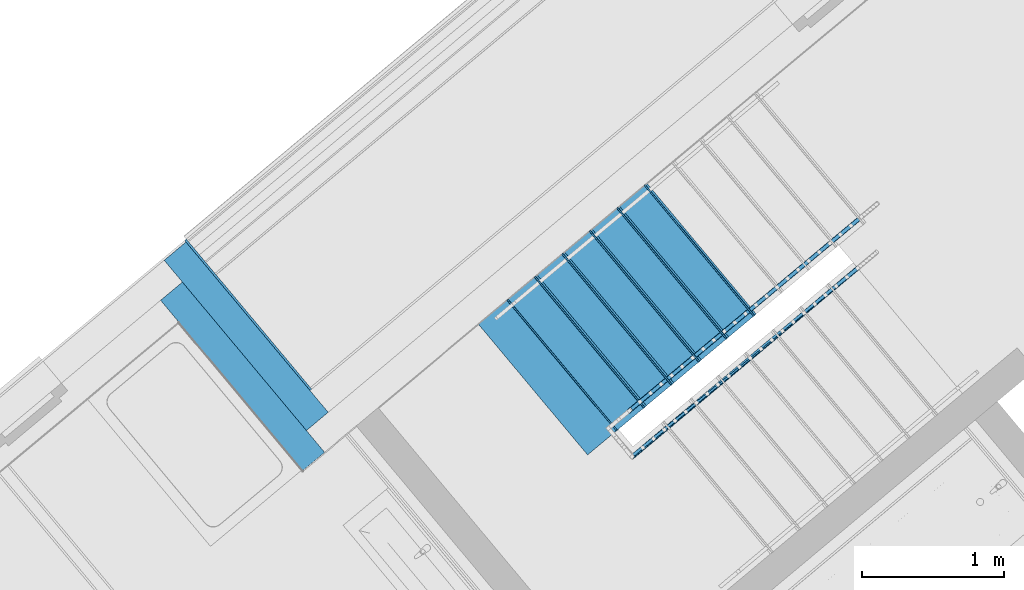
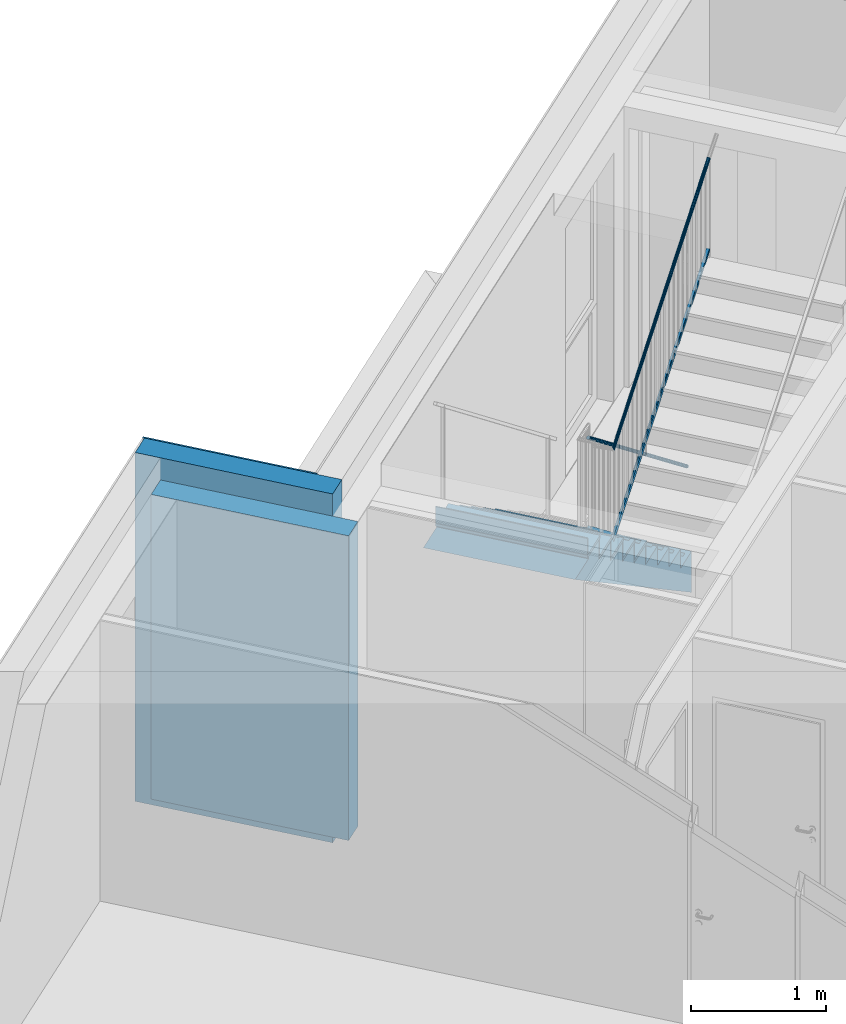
# One storey, part 32 of 53: 19 building element parts, 3 elements without a shape of their own.
"""IFC4 building model written with IfcOpenShell, lengths in metres."""

import ifcopenshell
import ifcopenshell.guid

model = None  # the IFC model being written
_history = None  # IfcOwnerHistory: only IFC2X3 demands one
_inside = {}  # id of a spatial element -> (the spatial element, [elements in it])
_under = {}  # id of a project, library or spatial element -> (it, [spatial elements below it])
_declared = {}  # id of a project -> (the project, [libraries it declares])
_typed = {}  # id of a type object -> (the type object, [elements of that type])
_made_of = {}  # id of a material, layer set ... -> (it, [elements and type objects made of it])


def new_model(schema):
    """Start an empty IFC model of exactly this schema.

    Asked for "IFC4X3", IfcOpenShell would pick the latest addendum, in which some entities
    have other attributes; the version numbers below select the first issue.
    IFC2X3 requires an IfcOwnerHistory on every rooted entity: one is made here for all.
    """
    global model, _history
    if schema == "IFC4X3":
        model = ifcopenshell.file(schema_version=(4, 3, 0, 0))
    else:
        model = ifcopenshell.file(schema=schema)
    _inside.clear()
    _under.clear()
    _declared.clear()
    _typed.clear()
    _made_of.clear()
    _history = None
    if model.schema == "IFC2X3":
        org = make("IfcOrganization", Name="unknown")
        user = make(
            "IfcPersonAndOrganization",
            ThePerson=make("IfcPerson", FamilyName="unknown"),
            TheOrganization=org,
        )
        app = make(
            "IfcApplication",
            ApplicationDeveloper=org,
            Version="unknown",
            ApplicationFullName="unknown",
            ApplicationIdentifier="unknown",
        )
        _history = make(
            "IfcOwnerHistory",
            OwningUser=user,
            OwningApplication=app,
            ChangeAction="ADDED",
            CreationDate=0,
        )
    return model


def make(cls, **values):
    """One entity of the class cls with the attributes given. An attribute that is None is left unset."""
    return model.create_entity(
        cls, **{name: value for name, value in values.items() if value is not None}
    )


def entity(cls, *values):
    """Any entity or typed value of the class cls, its attributes in the order of the schema. None: left unset."""
    e = model.create_entity(cls)
    for i, value in enumerate(values):
        if value is not None:
            e[i] = value
    return e


def rooted(cls, **values):
    """An entity with a GlobalId (a new one), such as an element, a storey or a relation."""
    return make(cls, GlobalId=ifcopenshell.guid.new(), OwnerHistory=_history, **values)


def si_unit(unit_type, name, prefix=None):
    """IfcSIUnit, for example si_unit("LENGTHUNIT", "METRE", prefix="MILLI")."""
    return make("IfcSIUnit", UnitType=unit_type, Prefix=prefix, Name=name)


def converted_unit(unit_type, name, factor, base, dimensions=None, offset=None):
    """IfcConversionBasedUnit, such as the inch: factor (a typed value) times the base unit."""
    return make(
        "IfcConversionBasedUnit"
        if offset is None
        else "IfcConversionBasedUnitWithOffset",
        ConversionOffset=offset,
        Dimensions=None
        if dimensions is None
        else entity("IfcDimensionalExponents", *dimensions),
        UnitType=unit_type,
        Name=name,
        ConversionFactor=make(
            "IfcMeasureWithUnit", ValueComponent=factor, UnitComponent=base
        ),
    )


def derived_unit(unit_type, elements):
    """IfcDerivedUnit: a product of units, each with its exponent."""
    return make(
        "IfcDerivedUnit",
        Elements=[
            make("IfcDerivedUnitElement", Unit=unit, Exponent=power)
            for unit, power in elements
        ],
        UnitType=unit_type,
    )


def assignment(units):
    """IfcUnitAssignment: the units of a project."""
    return None if units is None else make("IfcUnitAssignment", Units=units)


def point(xyz):
    """IfcCartesianPoint."""
    return None if xyz is None else make("IfcCartesianPoint", Coordinates=xyz)


def direction(xyz):
    """IfcDirection."""
    return None if xyz is None else make("IfcDirection", DirectionRatios=xyz)


def frame(location, z_axis=None, x_axis=None):
    """IfcAxis2Placement3D, a coordinate frame: its origin and axes. An axis left out is left unset."""
    return make(
        "IfcAxis2Placement3D",
        Location=point(location),
        Axis=direction(z_axis),
        RefDirection=direction(x_axis),
    )


def origin_with_axes():
    """The frame at (0, 0, 0) with the z axis (0, 0, 1) and the x axis (1, 0, 0) written out."""
    return frame((0.0, 0.0, 0.0), z_axis=(0.0, 0.0, 1.0), x_axis=(1.0, 0.0, 0.0))


def place(relative_to, where):
    """IfcLocalPlacement: puts the frame where relative to a parent placement (None: the world)."""
    return make(
        "IfcLocalPlacement", PlacementRelTo=relative_to, RelativePlacement=where
    )


def context(
    kind, dimensions, precision=None, world=None, true_north=None, identifier=None
):
    """IfcGeometricRepresentationContext, for example the 3D "Model" context."""
    return make(
        "IfcGeometricRepresentationContext",
        ContextIdentifier=identifier,
        ContextType=kind,
        CoordinateSpaceDimension=dimensions,
        Precision=precision,
        WorldCoordinateSystem=world,
        TrueNorth=true_north,
    )


def subcontext(parent, identifier, kind, view, scale=None):
    """IfcGeometricRepresentationSubContext, for example "Body" below "Model"."""
    return make(
        "IfcGeometricRepresentationSubContext",
        ContextIdentifier=identifier,
        ContextType=kind,
        ParentContext=parent,
        TargetScale=scale,
        TargetView=view,
    )


def project(units=None, contexts=None):
    """IfcProject with its units and contexts."""
    return rooted(
        "IfcProject",
        Name="project",
        RepresentationContexts=contexts,
        UnitsInContext=assignment(units),
    )


def spatial(cls, under=None, at=None, **own):
    """A site, building, storey or space (cls), placed at a placement, below another one or the project."""
    s = rooted(cls, ObjectPlacement=at, **own)
    if under is not None:
        _under.setdefault(under.id(), (under, []))[1].append(s)
    return s


def point_list(points):
    """IfcCartesianPointList2D or 3D."""
    cls = (
        "IfcCartesianPointList2D" if len(points[0]) == 2 else "IfcCartesianPointList3D"
    )
    return make(cls, CoordList=points)


def polygons(points, faces, closed=None, point_numbers=None):
    """IfcPolygonalFaceSet: a face is its outer loop, then its inner loops; points numbered from 1."""
    made = []
    for loops in faces:
        if len(loops) == 1:
            made.append(make("IfcIndexedPolygonalFace", CoordIndex=loops[0]))
        else:
            made.append(
                make(
                    "IfcIndexedPolygonalFaceWithVoids",
                    CoordIndex=loops[0],
                    InnerCoordIndices=loops[1:],
                )
            )
    return make(
        "IfcPolygonalFaceSet",
        Coordinates=point_list(points),
        Closed=closed,
        Faces=made,
        PnIndex=point_numbers,
    )


def shape(context_of_items, identifier, shape_type, items):
    """IfcShapeRepresentation: the items that make up one representation, for example the "Body"."""
    return make(
        "IfcShapeRepresentation",
        ContextOfItems=context_of_items,
        RepresentationIdentifier=identifier,
        RepresentationType=shape_type,
        Items=items,
    )


def material(Name=None, Category=None):
    """IfcMaterial."""
    return make("IfcMaterial", Name=Name, Category=Category)


def made_of(thing, what):
    """Note that an element or type object is made of a material, layer set ...; save() writes the relation."""
    if what is not None:
        _made_of.setdefault(what.id(), (what, []))[1].append(thing)
    return thing


def type_object(cls, material=None, **own):
    """A type object (cls), such as IfcWallType, which elements share."""
    return made_of(rooted(cls, **own), material)


def element(
    cls,
    number,
    at=None,
    inside=None,
    cuts=None,
    type_object=None,
    material=None,
    context=None,
    identifier="Body",
    shape_type=None,
    held_by="IfcProductDefinitionShape",
    body=None,
    shapes=None,
    **own,
):
    """One element of the class cls, such as IfcWall. Its Tag is "e" and its number.

    at: its placement. inside: the storey or other place that contains it. cuts: it is an
    opening in that element (IfcRelVoidsElement). A single representation is given by context,
    identifier, shape_type and body (its items); several are given by shapes. held_by: the class
    of the entity that holds the representations. save() writes the other relations.
    """
    e = rooted(cls, Tag="e%d" % number, ObjectPlacement=at, **own)
    if body is not None:
        shapes = [shape(context, identifier, shape_type, body)]
    if shapes is not None:
        e.Representation = make(held_by, Representations=shapes)
    if inside is not None:
        _inside.setdefault(inside.id(), (inside, []))[1].append(e)
    if cuts is not None:
        rooted(
            "IfcRelVoidsElement", RelatingBuildingElement=cuts, RelatedOpeningElement=e
        )
    if type_object is not None:
        _typed.setdefault(type_object.id(), (type_object, []))[1].append(e)
    return made_of(e, material)


def aggregate(whole, parts):
    """IfcRelAggregates: a whole, such as a stair, and the parts it consists of."""
    return rooted("IfcRelAggregates", RelatingObject=whole, RelatedObjects=parts)


def save(model, path):
    """Write the relations noted so far, then the file.

    IfcRelAggregates (storeys below a building ...), IfcRelContainedInSpatialStructure (elements
    in a storey), IfcRelDefinesByType, IfcRelAssociatesMaterial and IfcRelDeclares: one each for
    every whole, place, type object, material and project.
    """
    for whole, parts in _under.values():
        aggregate(whole, parts)
    for where, things in _inside.values():
        rooted(
            "IfcRelContainedInSpatialStructure",
            RelatedElements=things,
            RelatingStructure=where,
        )
    for kind, things in _typed.values():
        rooted("IfcRelDefinesByType", RelatedObjects=things, RelatingType=kind)
    for what, things in _made_of.values():
        rooted("IfcRelAssociatesMaterial", RelatedObjects=things, RelatingMaterial=what)
    for by, libraries in _declared.values():
        rooted("IfcRelDeclares", RelatingContext=by, RelatedDefinitions=libraries)
    model.write(path)


model = new_model("IFC4")

# Units and contexts
model_context = context("Model", 3, precision=1e-05, world=origin_with_axes(), true_north=direction((0.0, 1.0)))
body_context = subcontext(model_context, "Body", "Model", "MODEL_VIEW")
ifc_project = project(units=[si_unit("LENGTHUNIT", "METRE"), si_unit("AREAUNIT", "SQUARE_METRE"), si_unit("VOLUMEUNIT", "CUBIC_METRE"), converted_unit("PLANEANGLEUNIT", "DEGREE", entity("IfcPlaneAngleMeasure", 0.0174532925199), si_unit("PLANEANGLEUNIT", "RADIAN"), dimensions=[0, 0, 0, 0, 0, 0, 0]), converted_unit("TIMEUNIT", "Year", entity("IfcTimeMeasure", 31556926.0), si_unit("TIMEUNIT", "SECOND"), dimensions=[0, 0, 1, 0, 0, 0, 0]), si_unit("MASSUNIT", "GRAM", prefix="KILO"), si_unit("THERMODYNAMICTEMPERATUREUNIT", "DEGREE_CELSIUS"), si_unit("LUMINOUSINTENSITYUNIT", "LUMEN"), si_unit("ENERGYUNIT", "JOULE", prefix="MEGA"), derived_unit("THERMALCONDUCTANCEUNIT", [(si_unit("POWERUNIT", "WATT"), 1), (si_unit("LENGTHUNIT", "METRE"), -1), (si_unit("THERMODYNAMICTEMPERATUREUNIT", "KELVIN"), -1)]), derived_unit("SPECIFICHEATCAPACITYUNIT", [(si_unit("ENERGYUNIT", "JOULE"), 1), (si_unit("MASSUNIT", "GRAM", prefix="KILO"), -1), (si_unit("THERMODYNAMICTEMPERATUREUNIT", "KELVIN"), -1)]), derived_unit("MASSDENSITYUNIT", [(si_unit("MASSUNIT", "GRAM", prefix="KILO"), 1), (si_unit("VOLUMEUNIT", "CUBIC_METRE"), -1)])], contexts=[model_context])

# Site, building, storey
site_placement = place(None, frame((-0.00153261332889, -0.00661245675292, 0.0), z_axis=(0.0, 0.0, 1.0), x_axis=(1.0, 0.0, 0.0)))
site = spatial("IfcSite", under=ifc_project, at=site_placement, Name="Gelände", CompositionType="ELEMENT")
building_placement = place(site_placement, origin_with_axes())
building = spatial("IfcBuilding", under=site, at=building_placement, Name="Gebäude", CompositionType="ELEMENT")
storey_placement = place(building_placement, frame((0.0, 0.0, 2.74), z_axis=(0.0, 0.0, 1.0), x_axis=(1.0, 0.0, 0.0)))
storey = spatial("IfcBuildingStorey", under=building, at=storey_placement, Name="OG1", CompositionType="ELEMENT", Elevation=2.74)

# Wall, building element parts
wall_type = type_object("IfcWallType", Name="AW EG 420", PredefinedType="NOTDEFINED")
wall_placement = place(storey_placement, frame((-4.30928730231, 22.6730576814, -0.2), z_axis=(0.0, 0.0, 1.0), x_axis=(-0.641206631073, 0.767368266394, 0.0)))
wall = element("IfcWall", 1, at=wall_placement, inside=storey, type_object=wall_type, Name="Wand-002", PredefinedType="NOTDEFINED")
ifc_material_1 = material(Name="Stahlbeton Wand")
building_element_part_1_placement = place(wall_placement, origin_with_axes())
building_element_part_1 = element("IfcBuildingElementPart", 2, at=building_element_part_1_placement, material=ifc_material_1, Name="Stahlbeton Wand", PredefinedType="NOTDEFINED", context=body_context, shape_type="Tessellation", body=[
    polygons([(1.14643888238, 0.215, 2.96), (-0.215000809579, 0.215, 2.96), (-0.41500080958, 0.215, 2.96), (-0.41500080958, 0.215, 0.2), (-0.215000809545, 0.214999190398, 0.2), (1.14643888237, 0.215004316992, 0.2), (-0.415001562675, 0.415, 2.96), (1.14643891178, 0.415, 2.96), (-0.415001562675, 0.415, 0.2), (1.14643888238, 0.415, 0.2)], [[[1, 2, 3, 4, 5, 6]], [[7, 3, 2, 1, 8]], [[3, 7, 9, 4]], [[5, 4, 9, 10, 6]], [[8, 1, 6, 10]], [[7, 8, 10, 9]]], closed=True),
])
ifc_material_2 = material(Name="EPS 1")
building_element_part_2_placement = place(wall_placement, origin_with_axes())
building_element_part_2 = element("IfcBuildingElementPart", 3, at=building_element_part_2_placement, material=ifc_material_2, Name="EPS 1", PredefinedType="NOTDEFINED", context=body_context, shape_type="Tessellation", body=[
    polygons([(1.34643888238, 0.215, 3.16), (1.34643888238, 0.215, 0.0), (-0.215000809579, 0.215, 0.0), (-0.215000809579, 0.215, 3.16), (1.34643888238, 0.135005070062, 0.0), (1.34643888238, 0.015, 3.16), (1.34643729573, 0.015, 0.2), (1.34643888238, 0.0234629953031, 0.2), (1.34643888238, 0.135005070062, 0.2), (-0.13500050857, 0.134999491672, 0.0), (-0.135000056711, 0.015, 0.0), (-0.215000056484, 0.015, 0.0), (-0.215000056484, 0.015, 3.16), (-0.135000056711, 0.015, 0.2), (-0.13500050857, 0.134999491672, 0.2)], [[[1, 2, 3, 4]], [[5, 2, 1, 6, 7, 8, 9]], [[2, 5, 10, 11, 12, 3]], [[4, 3, 12, 13]], [[6, 1, 4, 13]], [[11, 14, 7, 6, 13, 12]], [[9, 8, 7, 14, 15]], [[5, 9, 15, 10]], [[10, 15, 14, 11]]], closed=True),
])
ifc_material_3 = material(Name="Zementputz")
building_element_part_3_placement = place(wall_placement, origin_with_axes())
building_element_part_3 = element("IfcBuildingElementPart", 4, at=building_element_part_3_placement, material=ifc_material_3, Name="Zementputz", PredefinedType="NOTDEFINED", context=body_context, shape_type="Tessellation", body=[
    polygons([(-0.0150000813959, 0.0149999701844, 0.215), (-0.0150000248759, 0.0, 0.215), (-0.0150000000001, 0.0, 3.16), (-0.0150000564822, 0.015, 3.16), (1.14643605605, 0.0, 0.215), (1.14643887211, 0.0150000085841, 0.215), (1.14643605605, 0.0, 0.2), (1.34643448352, 0.0, 0.2), (1.34643448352, 0.0, 0.0), (1.36143888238, 0.0, 0.0), (1.36143888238, 0.0, 3.16), (1.36143888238, 0.015, 3.16), (1.36143888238, 0.015, 0.0), (1.34643729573, 0.015, 0.0), (1.34643729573, 0.015, 0.2), (1.14643887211, 0.0150000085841, 0.2)], [[[1, 2, 3, 4]], [[5, 2, 1, 6]], [[5, 7, 8, 9, 10, 11, 3, 2]], [[11, 12, 4, 3]], [[6, 1, 4, 12, 13, 14, 15, 16]], [[7, 5, 6, 16]], [[7, 16, 15, 8]], [[9, 8, 15, 14]], [[9, 14, 13, 10]], [[10, 13, 12, 11]]], closed=True),
])
aggregate(wall, [building_element_part_1, building_element_part_2, building_element_part_3])

# Space
space_placement = place(storey_placement, frame((0.280300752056, 22.6307267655, 0.22), z_axis=(0.0, 0.0, 1.0), x_axis=(-0.641244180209, 0.767336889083, 0.0)))
space = spatial("IfcSpace", under=storey, at=space_placement, CompositionType="ELEMENT", PredefinedType="NOTDEFINED")

# Railing, building element parts
railing_type = type_object("IfcRailingType", Name="Geländerart", PredefinedType="NOTDEFINED")
railing_placement = place(space_placement, frame((1.35982515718, -0.251690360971, -0.17), z_axis=(0.0, 0.0, 1.0), x_axis=(-0.641244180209, -0.767336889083, 0.0)))
railing = element("IfcRailing", 5, at=railing_placement, inside=space, type_object=railing_type, Name="Geländer - 001", PredefinedType="NOTDEFINED")
ifc_material_4 = material(Name="BEKLEIDUNG")
building_element_part_4_placement = place(railing_placement, origin_with_axes())
building_element_part_4 = element("IfcBuildingElementPart", 6, at=building_element_part_4_placement, material=ifc_material_4, Name="BEKLEIDUNG", PredefinedType="NOTDEFINED", context=body_context, shape_type="Tessellation", body=[
    polygons([(-0.0295187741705, 0.0209453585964, 0.88817063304), (-0.0284358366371, 0.0221471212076, 0.890224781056), (-1.65968848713, -1.34078287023, 2.5475849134), (-1.66154123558, -1.34262781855, 2.54631289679), (-0.0308939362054, 0.0200933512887, 0.886116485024), (-0.0325195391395, 0.0196169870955, 0.884124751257), (-0.03434618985, 0.0195307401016, 0.88225594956), (-0.0363183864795, 0.0198372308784, 0.880566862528), (-0.0383762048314, 0.0205271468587, 0.879108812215), (-0.0404571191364, 0.0215795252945, 0.877926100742), (-0.0424979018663, 0.0229623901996, 0.877054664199), (-0.0444365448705, 0.0246337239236, 0.876520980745), (-0.0462141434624, 0.026542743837, 0.87634126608), (-0.0477766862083, 0.0286314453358, 0.876520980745), (-0.0490766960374, 0.030836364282, 0.877054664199), (-0.0500746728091, 0.0330905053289, 0.877926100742), (-0.050740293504, 0.0353253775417, 0.879108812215), (-0.0510533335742, 0.0374730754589, 0.880566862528), (-0.0510042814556, 0.0394683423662, 0.88225594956), (-0.0505946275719, 0.0412505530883, 0.884124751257), (-0.0498368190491, 0.0427655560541, 0.886116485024), (-0.0487538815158, 0.0439673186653, 0.88817063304), (-0.0473787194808, 0.0448193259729, 0.890224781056), (-0.0457531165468, 0.0452956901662, 0.892216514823), (-0.0439264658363, 0.04538193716, 0.89408531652), (-0.0419542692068, 0.0450754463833, 0.895774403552), (-0.0398964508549, 0.044385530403, 0.897232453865), (-0.0378155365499, 0.0433331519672, 0.898415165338), (-0.03577475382, 0.0419502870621, 0.899286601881), (-0.0338361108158, 0.0402789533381, 0.899820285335), (-0.0320585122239, 0.0383699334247, 0.9), (-0.030495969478, 0.0362812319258, 0.899820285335), (-0.0291959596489, 0.0340763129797, 0.899286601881), (-0.0281979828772, 0.0318221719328, 0.898415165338), (-0.0275323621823, 0.02958729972, 0.897232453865), (-0.0272193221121, 0.0274396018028, 0.895774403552), (-0.0272683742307, 0.0254443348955, 0.89408531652), (-0.0276780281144, 0.0236621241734, 0.892216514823), (-1.658184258, -1.33864422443, 2.54881828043), (-1.65707425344, -1.33627686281, 2.54997552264), (-1.65639220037, -1.33375271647, 2.55102147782), (-1.65615882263, -1.33114848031, 2.55192436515), (-1.65638121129, -1.32854328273, 2.55265675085), (-1.65705260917, -1.32601628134, 2.55319638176), (-1.6581526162, -1.3236442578, 2.55352686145), (-1.65964780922, -1.32149928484, 2.55363814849), (-1.66149275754, -1.31964653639, 2.55352686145), (-1.66363140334, -1.31814230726, 2.55319638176), (-1.66599876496, -1.31703230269, 2.55265675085), (-1.6685229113, -1.31635024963, 2.55192436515), (-1.67112714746, -1.31611687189, 2.55102147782), (-1.67373234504, -1.31633926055, 2.54997552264), (-1.67625934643, -1.31701065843, 2.54881828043), (-1.67863136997, -1.31811066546, 2.5475849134), (-1.68077634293, -1.31960585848, 2.54631289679), (-1.68262909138, -1.3214508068, 2.54504088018), (-1.68413332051, -1.3235894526, 2.54380751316), (-1.68524332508, -1.32595681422, 2.54265027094), (-1.68592537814, -1.32848096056, 2.54160431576), (-1.68615875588, -1.33108519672, 2.54070142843), (-1.68593636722, -1.3336903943, 2.53996904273), (-1.68526496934, -1.33621739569, 2.53942941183), (-1.68416496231, -1.33858941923, 2.53909893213), (-1.68266976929, -1.34073439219, 2.53898764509), (-1.68082482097, -1.34258714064, 2.53909893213), (-1.67868617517, -1.34409136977, 2.53942941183), (-1.67631881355, -1.34520137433, 2.53996904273), (-1.67379466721, -1.3458834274, 2.54070142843), (-1.67119043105, -1.34611680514, 2.54160431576), (-1.66858523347, -1.34589441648, 2.54265027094), (-1.66605823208, -1.3452230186, 2.54380751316), (-1.66368620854, -1.34412301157, 2.54504088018)], [[[1, 2, 3, 4]], [[1, 5, 6, 7, 8, 9, 10, 11, 12, 13, 14, 15, 16, 17, 18, 19, 20, 21, 22, 23, 24, 25, 26, 27, 28, 29, 30, 31, 32, 33, 34, 35, 36, 37, 38, 2]], [[2, 38, 39, 3]], [[4, 3, 39, 40, 41, 42, 43, 44, 45, 46, 47, 48, 49, 50, 51, 52, 53, 54, 55, 56, 57, 58, 59, 60, 61, 62, 63, 64, 65, 66, 67, 68, 69, 70, 71, 72]], [[5, 1, 4, 72]], [[6, 5, 72, 71]], [[7, 6, 71, 70]], [[8, 7, 70, 69]], [[9, 8, 69, 68]], [[10, 9, 68, 67]], [[11, 10, 67, 66]], [[12, 11, 66, 65]], [[13, 12, 65, 64]], [[14, 13, 64, 63]], [[15, 14, 63, 62]], [[16, 15, 62, 61]], [[17, 16, 61, 60]], [[18, 17, 60, 59]], [[19, 18, 59, 58]], [[20, 19, 58, 57]], [[21, 20, 57, 56]], [[22, 21, 56, 55]], [[23, 22, 55, 54]], [[24, 23, 54, 53]], [[25, 24, 53, 52]], [[26, 25, 52, 51]], [[27, 26, 51, 50]], [[28, 27, 50, 49]], [[29, 28, 49, 48]], [[30, 29, 48, 47]], [[31, 30, 47, 46]], [[32, 31, 46, 45]], [[33, 32, 45, 44]], [[34, 33, 44, 43]], [[35, 34, 43, 42]], [[36, 35, 42, 41]], [[37, 36, 41, 40]], [[38, 37, 40, 39]]], closed=True),
])
building_element_part_5_placement = place(railing_placement, origin_with_axes())
building_element_part_5 = element("IfcBuildingElementPart", 7, at=building_element_part_5_placement, material=ifc_material_4, Name="BEKLEIDUNG", PredefinedType="NOTDEFINED", context=body_context, shape_type="Tessellation", body=[
    polygons([(-0.0341749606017, 0.0528904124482, 0.0798578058), (-0.0459713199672, 0.0430344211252, 0.0601421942), (-1.67725492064, -1.31992142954, 1.71753377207), (-1.65806995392, -1.30389217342, 1.7297425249), (-0.0181457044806, 0.0337054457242, 0.0798578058), (-0.029942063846, 0.0238494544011, 0.0601421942), (-1.66122566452, -1.33910639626, 1.71753377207), (-1.6420406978, -1.32307714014, 1.7297425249)], [[[1, 2, 3, 4]], [[1, 5, 6, 2]], [[2, 6, 7, 3]], [[4, 3, 7, 8]], [[5, 1, 4, 8]], [[6, 5, 8, 7]]], closed=True),
])
building_element_part_6_placement = place(railing_placement, origin_with_axes())
building_element_part_6 = element("IfcBuildingElementPart", 8, at=building_element_part_6_placement, material=ifc_material_4, Name="BEKLEIDUNG", PredefinedType="NOTDEFINED", context=body_context, shape_type="Tessellation", body=[
    polygons([(-1.63742845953, -1.63075810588, 2.62537536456), (-1.63846858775, -1.63088446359, 2.62789734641), (-0.0630386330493, -0.30687497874, 3.89943593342), (-1.63648900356, -1.63122206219, 2.62285338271), (-1.63567876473, -1.63226223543, 2.62040803), (-1.63502236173, -1.63384702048, 2.61811360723), (-1.63453973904, -1.63592826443, 2.61603982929), (-1.63424556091, -1.63844272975, 2.61424970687), (-1.63414876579, -1.64131401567, 2.61279763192), (-1.63425229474, -1.64445487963, 2.61172772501), (-1.63455300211, -1.64776988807, 2.61107249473), (-1.63504175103, -1.65115831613, 2.61085184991), (-1.63570369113, -1.65451720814, 2.61107249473), (-1.63651870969, -1.65774450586, 2.61172772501), (-1.63746204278, -1.66074214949, 2.61279763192), (-1.63850502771, -1.66341905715, 2.61424970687), (-1.63961597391, -1.66569389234, 2.61603982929), (-1.64076112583, -1.66749753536, 2.61811360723), (-1.64190568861, -1.66877518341, 2.62040803), (-1.64301488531, -1.66948801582, 2.62285338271), (-1.64405501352, -1.66961437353, 2.62537536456), (-1.64499446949, -1.66915041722, 2.62789734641), (-1.64580470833, -1.66811024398, 2.63034269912), (-1.64646111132, -1.66652545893, 2.63263712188), (-1.64694373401, -1.66444421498, 2.63471089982), (-1.64723791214, -1.66192974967, 2.63650102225), (-1.64733470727, -1.65905846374, 2.6379530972), (-1.64723117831, -1.65591759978, 2.6390230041), (-1.64693047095, -1.65260259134, 2.63967823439), (-1.64644172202, -1.64921416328, 2.63989887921), (-1.64577978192, -1.64585527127, 2.63967823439), (-1.64496476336, -1.64262797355, 2.6390230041), (-1.64402143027, -1.63963032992, 2.6379530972), (-1.64297844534, -1.63695342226, 2.63650102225), (-1.64186749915, -1.63467858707, 2.63471089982), (-1.64072234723, -1.63287494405, 2.63263712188), (-1.63957778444, -1.631597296, 2.63034269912), (-0.0636185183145, -0.30824141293, 3.90158839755), (-0.0621391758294, -0.305826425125, 3.89721601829), (-0.0609474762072, -0.305127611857, 3.89499610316), (-0.0594997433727, -0.304799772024, 3.89284363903), (-0.0578399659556, -0.304852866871, 3.89082402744), (-0.0560185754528, -0.305285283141, 3.88899863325), (-0.054090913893, -0.306083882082, 3.88742292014), (-0.0521155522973, -0.30722439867, 3.88614476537), (-0.0501525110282, -0.308672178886, 3.88520300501), (-0.0482614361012, -0.310383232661, 3.88462625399), (-0.0464997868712, -0.312305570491, 3.88443203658), (-0.0449210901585, -0.314380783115, 3.88462625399), (-0.043573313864, -0.316545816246, 3.88520300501), (-0.0424974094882, -0.318734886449, 3.88614476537), (-0.0417260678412, -0.320881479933, 3.88742292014), (-0.0412827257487, -0.322920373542, 3.88899863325), (-0.0411808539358, -0.324789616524, 3.89082402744), (-0.041423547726, -0.326432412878, 3.89284363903), (-0.0420034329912, -0.327798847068, 3.89499610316), (-0.0429028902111, -0.328847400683, 3.89721601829), (-0.0440945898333, -0.329546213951, 3.89943593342), (-0.0455423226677, -0.329874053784, 3.90158839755), (-0.0472021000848, -0.329820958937, 3.90360800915), (-0.0490234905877, -0.329388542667, 3.90543340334), (-0.0509511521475, -0.328589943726, 3.90700911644), (-0.0529265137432, -0.327449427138, 3.90828727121), (-0.0548895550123, -0.326001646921, 3.90922903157), (-0.0567806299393, -0.324290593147, 3.90980578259), (-0.0585422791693, -0.322368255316, 3.91), (-0.0601209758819, -0.320293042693, 3.90980578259), (-0.0614687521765, -0.318128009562, 3.90922903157), (-0.0625446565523, -0.315938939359, 3.90828727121), (-0.0633159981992, -0.313792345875, 3.90700911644), (-0.0637593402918, -0.311753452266, 3.90543340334), (-0.0638612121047, -0.309884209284, 3.90360800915)], [[[1, 2, 3]], [[1, 4, 5, 6, 7, 8, 9, 10, 11, 12, 13, 14, 15, 16, 17, 18, 19, 20, 21, 22, 23, 24, 25, 26, 27, 28, 29, 30, 31, 32, 33, 34, 35, 36, 37, 2]], [[2, 38, 3]], [[1, 3, 39]], [[4, 1, 39]], [[5, 4, 40]], [[6, 5, 41]], [[7, 6, 42]], [[8, 7, 43]], [[9, 8, 44]], [[10, 9, 45]], [[11, 10, 46]], [[12, 11, 47]], [[13, 12, 48]], [[14, 13, 49]], [[15, 14, 50]], [[16, 15, 51]], [[17, 16, 52]], [[18, 17, 53]], [[19, 18, 54]], [[20, 19, 55]], [[21, 20, 56]], [[22, 21, 57]], [[23, 22, 58]], [[24, 23, 59]], [[25, 24, 60]], [[26, 25, 61]], [[27, 26, 62]], [[28, 27, 63]], [[29, 28, 64]], [[30, 29, 65]], [[31, 30, 66]], [[32, 31, 67]], [[33, 32, 68]], [[34, 33, 69]], [[35, 34, 70]], [[36, 35, 71]], [[37, 36, 72]], [[2, 37, 38]], [[39, 3, 38, 72, 71, 70, 69, 68, 67, 66, 65, 64, 63, 62, 61, 60, 59, 58, 57, 56, 55, 54, 53, 52, 51, 50, 49, 48, 47, 46, 45, 44, 43, 42, 41, 40]], [[4, 39, 40]], [[5, 40, 41]], [[6, 41, 42]], [[7, 42, 43]], [[8, 43, 44]], [[9, 44, 45]], [[10, 45, 46]], [[11, 46, 47]], [[12, 47, 48]], [[13, 48, 49]], [[14, 49, 50]], [[15, 50, 51]], [[16, 51, 52]], [[17, 52, 53]], [[18, 53, 54]], [[19, 54, 55]], [[20, 55, 56]], [[21, 56, 57]], [[22, 57, 58]], [[23, 58, 59]], [[24, 59, 60]], [[25, 60, 61]], [[26, 61, 62]], [[27, 62, 63]], [[28, 63, 64]], [[29, 64, 65]], [[30, 65, 66]], [[31, 66, 67]], [[32, 67, 68]], [[33, 68, 69]], [[34, 69, 70]], [[35, 70, 71]], [[36, 71, 72]], [[37, 72, 38]]], closed=True),
])
building_element_part_7_placement = place(railing_placement, origin_with_axes())
building_element_part_7 = element("IfcBuildingElementPart", 9, at=building_element_part_7_placement, material=ifc_material_4, Name="BEKLEIDUNG", PredefinedType="NOTDEFINED", context=body_context, shape_type="Tessellation", body=[
    polygons([(-1.6539527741, -1.66459421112, 1.82200180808), (-1.64445279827, -1.66621433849, 1.79779595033), (-0.0455094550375, -0.327767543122, 3.06934668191), (-1.64843064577, -1.63221398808, 1.82200180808), (-1.63893066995, -1.63383411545, 1.79779595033), (-0.0615396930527, -0.308583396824, 3.06934668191), (-0.0555448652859, -0.336153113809, 3.09065331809), (-0.0715751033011, -0.316968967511, 3.09065331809)], [[[1, 2, 3]], [[1, 4, 5, 2]], [[2, 6, 3]], [[1, 3, 7]], [[4, 1, 7]], [[5, 4, 8]], [[2, 5, 6]], [[7, 3, 6, 8]], [[4, 7, 8]], [[5, 8, 6]]], closed=True),
])
aggregate(railing, [building_element_part_4, building_element_part_5, building_element_part_6, building_element_part_7])

# Stair, building element parts
stair_type = type_object("IfcStairType", Name="Treppentyp", PredefinedType="NOTDEFINED")
stair_placement = place(space_placement, frame((2.55980055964, -0.50704333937, -0.17), z_axis=(0.0, 0.0, 1.0), x_axis=(-0.641244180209, -0.767336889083, 0.0)))
stair = element("IfcStair", 10, at=stair_placement, inside=space, type_object=stair_type, Name="Treppe - 001", PredefinedType="NOTDEFINED")
ifc_material_5 = material(Name="Stahlbeton Decke")
building_element_part_8_placement = place(stair_placement, origin_with_axes())
building_element_part_8 = element("IfcBuildingElementPart", 11, at=building_element_part_8_placement, material=ifc_material_5, Name="Stahlbeton Decke", PredefinedType="NOTDEFINED", context=body_context, shape_type="Tessellation", body=[
    polygons([(-1.93419043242, -1.61603796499, 1.54558823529), (-1.16478618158, -2.53691636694, 1.54558823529), (-1.16478615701, -2.53691634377, 1.56852941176), (-1.93419045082, -1.61603794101, 1.56852941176), (-2.15516351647, -1.80066346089, 1.54558823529), (-1.38575924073, -2.72154184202, 1.54558823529), (-1.16478618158, -2.53691636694, 1.34302096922), (-1.10040387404, -2.48312422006, 1.28400133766), (-1.03602159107, -2.42933209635, 1.22498172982), (-0.971639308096, -2.37553997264, 1.16596212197), (-0.907257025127, -2.32174784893, 1.10694251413), (-0.842874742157, -2.26795572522, 1.04792290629), (-0.778492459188, -2.21416360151, 0.988903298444), (-0.714110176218, -2.1603714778, 0.929883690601), (-0.649727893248, -2.1065793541, 0.870864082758), (-0.585345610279, -2.05278723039, 0.811844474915), (-0.520963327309, -1.99899510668, 0.752824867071), (-0.45658104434, -1.94520298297, 0.693805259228), (-0.39219876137, -1.89141085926, 0.634785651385), (-0.3278164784, -1.83761873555, 0.575766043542), (-0.263434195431, -1.78382661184, 0.516746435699), (-0.199051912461, -1.73003448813, 0.457726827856), (-0.134669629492, -1.67624236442, 0.398707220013), (-0.0702873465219, -1.62245024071, 0.339687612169), (-0.00590506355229, -1.568658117, 0.280668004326), (0.0584772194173, -1.51486599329, 0.221648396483), (0.122859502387, -1.46107386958, 0.16262878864), (0.187241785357, -1.40728174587, 0.103609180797), (0.251624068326, -1.35348962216, 0.0445895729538), (0.316006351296, -1.29969749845, -0.0144300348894), (0.380388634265, -1.24590537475, -0.0734496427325), (0.444770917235, -1.19211325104, -0.132469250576), (0.509153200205, -1.13832112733, -0.191488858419), (0.54283953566, -1.11017581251, -0.222369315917), (0.54283953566, -1.11017581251, 0.152058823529), (0.361126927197, -1.26199874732, 0.152058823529), (0.361126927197, -1.26199874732, 0.329117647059), (0.167980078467, -1.42337511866, 0.329117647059), (0.167980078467, -1.42337511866, 0.506176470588), (-0.0251667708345, -1.58475148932, 0.506176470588), (-0.0251667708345, -1.58475148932, 0.683235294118), (-0.218313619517, -1.74612786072, 0.683235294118), (-0.218313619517, -1.74612786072, 0.860294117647), (-0.411460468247, -1.90750423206, 0.860294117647), (-0.411460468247, -1.90750423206, 1.03735294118), (-0.604607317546, -2.06888060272, 1.03735294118), (-0.604607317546, -2.06888060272, 1.21441176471), (-0.797754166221, -2.23025697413, 1.21441176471), (-0.797754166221, -2.23025697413, 1.39147058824), (-0.990901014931, -2.3916333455, 1.39147058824), (-0.990901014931, -2.3916333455, 1.56852941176), (-1.7603053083, -1.47075494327, 1.56852941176), (-1.7603053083, -1.47075494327, 1.39147058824), (-1.56715845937, -1.30937857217, 1.39147058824), (-1.56715845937, -1.30937857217, 1.21441176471), (-1.37401161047, -1.14800220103, 1.21441176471), (-1.37401161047, -1.14800220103, 1.03735294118), (-1.18086476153, -0.986625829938, 1.03735294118), (-1.18086476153, -0.986625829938, 0.860294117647), (-0.987717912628, -0.825249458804, 0.860294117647), (-0.987717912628, -0.825249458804, 0.683235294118), (-0.794571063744, -0.663873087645, 0.683235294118), (-0.794571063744, -0.663873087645, 0.506176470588), (-0.601424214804, -0.502496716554, 0.506176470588), (-0.601424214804, -0.502496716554, 0.329117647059), (-0.408277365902, -0.341120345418, 0.329117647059), (-0.408277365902, -0.341120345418, 0.152058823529), (-0.22656475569, -0.189297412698, 0.152058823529), (-0.22656475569, -0.189297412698, -0.222369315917), (-0.260251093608, -0.217442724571, -0.191488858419), (-0.324633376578, -0.27123484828, -0.132469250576), (-0.389015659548, -0.32502697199, -0.0734496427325), (-0.453397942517, -0.378819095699, -0.0144300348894), (-0.517780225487, -0.432611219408, 0.0445895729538), (-0.582162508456, -0.486403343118, 0.103609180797), (-0.646544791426, -0.540195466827, 0.16262878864), (-0.710927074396, -0.593987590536, 0.221648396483), (-0.775309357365, -0.647779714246, 0.280668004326), (-0.839691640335, -0.701571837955, 0.339687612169), (-0.904073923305, -0.755363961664, 0.398707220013), (-0.968456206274, -0.809156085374, 0.457726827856), (-1.03283848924, -0.862948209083, 0.516746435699), (-1.09722077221, -0.916740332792, 0.575766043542), (-1.16160305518, -0.970532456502, 0.634785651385), (-1.22598533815, -1.02432458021, 0.693805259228), (-1.29036762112, -1.07811670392, 0.752824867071), (-1.35474990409, -1.13190882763, 0.811844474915), (-1.41913218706, -1.18570095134, 0.870864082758), (-1.48351447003, -1.23949307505, 0.929883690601), (-1.547896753, -1.29328519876, 0.988903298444), (-1.61227903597, -1.34707732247, 1.04792290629), (-1.67666131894, -1.40086944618, 1.10694251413), (-1.74104360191, -1.45466156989, 1.16596212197), (-1.80542588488, -1.5084536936, 1.22498172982), (-1.86980816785, -1.5622458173, 1.28400133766), (-1.93419043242, -1.61603796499, 1.34302094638)], [[[1, 2, 3, 4]], [[2, 1, 5, 6]], [[7, 8, 9, 10, 11, 12, 13, 14, 15, 16, 17, 18, 19, 20, 21, 22, 23, 24, 25, 26, 27, 28, 29, 30, 31, 32, 33, 34, 35, 36, 37, 38, 39, 40, 41, 42, 43, 44, 45, 46, 47, 48, 49, 50, 51, 3, 2, 6]], [[52, 4, 3, 51]], [[1, 4, 52, 53, 54, 55, 56, 57, 58, 59, 60, 61, 62, 63, 64, 65, 66, 67, 68, 69, 70, 71, 72, 73, 74, 75, 76, 77, 78, 79, 80, 81, 82, 83, 84, 85, 86, 87, 88, 89, 90, 91, 92, 93, 94, 95, 96, 5]], [[96, 95, 8, 7, 6, 5]], [[95, 94, 9, 8]], [[94, 93, 10, 9]], [[93, 92, 11, 10]], [[92, 91, 12, 11]], [[91, 90, 13, 12]], [[90, 89, 14, 13]], [[89, 88, 15, 14]], [[88, 87, 16, 15]], [[87, 86, 17, 16]], [[86, 85, 18, 17]], [[85, 84, 19, 18]], [[84, 83, 20, 19]], [[83, 82, 21, 20]], [[82, 81, 22, 21]], [[81, 80, 23, 22]], [[80, 79, 24, 23]], [[79, 78, 25, 24]], [[78, 77, 26, 25]], [[77, 76, 27, 26]], [[76, 75, 28, 27]], [[75, 74, 29, 28]], [[74, 73, 30, 29]], [[73, 72, 31, 30]], [[72, 71, 32, 31]], [[71, 70, 33, 32]], [[70, 69, 34, 33]], [[69, 68, 35, 34]], [[36, 35, 68, 67]], [[37, 36, 67, 66]], [[65, 38, 37, 66]], [[39, 38, 65, 64]], [[63, 40, 39, 64]], [[41, 40, 63, 62]], [[61, 42, 41, 62]], [[43, 42, 61, 60]], [[59, 44, 43, 60]], [[45, 44, 59, 58]], [[57, 46, 45, 58]], [[47, 46, 57, 56]], [[55, 48, 47, 56]], [[49, 48, 55, 54]], [[53, 50, 49, 54]], [[51, 50, 53, 52]]], closed=True),
])
building_element_part_9_placement = place(stair_placement, origin_with_axes())
building_element_part_9 = element("IfcBuildingElementPart", 12, at=building_element_part_9_placement, material=ifc_material_4, Name="BEKLEIDUNG", PredefinedType="NOTDEFINED", context=body_context, shape_type="Tessellation", body=[
    polygons([(-0.979967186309, -0.818773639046, 0.860294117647), (-0.987641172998, -0.825185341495, 0.860294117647), (-0.218236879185, -1.74606374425, 0.860294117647), (-0.210562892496, -1.7396520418, 0.860294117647), (-0.979967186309, -0.818773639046, 0.708235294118), (-0.987641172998, -0.825185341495, 0.708235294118), (-0.218236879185, -1.74606374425, 0.708235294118), (-0.210562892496, -1.7396520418, 0.708235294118)], [[[1, 2, 3, 4]], [[1, 5, 6, 2]], [[2, 6, 7, 3]], [[4, 3, 7, 8]], [[5, 1, 4, 8]], [[6, 5, 8, 7]]], closed=True),
])
building_element_part_10_placement = place(stair_placement, origin_with_axes())
building_element_part_10 = element("IfcBuildingElementPart", 13, at=building_element_part_10_placement, material=ifc_material_4, Name="BEKLEIDUNG", PredefinedType="NOTDEFINED", context=body_context, shape_type="Tessellation", body=[
    polygons([(-1.17311403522, -0.980150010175, 1.03735294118), (-1.18078802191, -0.986561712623, 1.03735294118), (-0.411383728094, -1.90744011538, 1.03735294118), (-0.403709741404, -1.90102841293, 1.03735294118), (-1.17311403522, -0.980150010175, 0.885294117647), (-1.18078802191, -0.986561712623, 0.885294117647), (-0.411383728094, -1.90744011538, 0.885294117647), (-0.403709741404, -1.90102841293, 0.885294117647)], [[[1, 2, 3, 4]], [[1, 5, 6, 2]], [[2, 6, 7, 3]], [[4, 3, 7, 8]], [[5, 1, 4, 8]], [[6, 5, 8, 7]]], closed=True),
])
building_element_part_11_placement = place(stair_placement, origin_with_axes())
building_element_part_11 = element("IfcBuildingElementPart", 14, at=building_element_part_11_placement, material=ifc_material_4, Name="BEKLEIDUNG", PredefinedType="NOTDEFINED", context=body_context, shape_type="Tessellation", body=[
    polygons([(-1.36626088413, -1.1415263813, 1.21441176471), (-1.37393487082, -1.14793808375, 1.21441176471), (-0.604530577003, -2.06881648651, 1.21441176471), (-0.596856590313, -2.06240478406, 1.21441176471), (-1.36626088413, -1.1415263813, 1.06235294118), (-1.37393487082, -1.14793808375, 1.06235294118), (-0.604530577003, -2.06881648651, 1.06235294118), (-0.596856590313, -2.06240478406, 1.06235294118)], [[[1, 2, 3, 4]], [[1, 5, 6, 2]], [[2, 6, 7, 3]], [[4, 3, 7, 8]], [[5, 1, 4, 8]], [[6, 5, 8, 7]]], closed=True),
])
building_element_part_12_placement = place(stair_placement, origin_with_axes())
building_element_part_12 = element("IfcBuildingElementPart", 15, at=building_element_part_12_placement, material=ifc_material_4, Name="BEKLEIDUNG", PredefinedType="NOTDEFINED", context=body_context, shape_type="Tessellation", body=[
    polygons([(-1.55940773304, -1.30290275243, 1.39147058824), (-1.56708171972, -1.30931445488, 1.39147058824), (-0.797677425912, -2.23019285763, 1.39147058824), (-0.790003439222, -2.22378115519, 1.39147058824), (-1.55940773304, -1.30290275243, 1.23941176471), (-1.56708171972, -1.30931445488, 1.23941176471), (-0.797677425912, -2.23019285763, 1.23941176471), (-0.790003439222, -2.22378115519, 1.23941176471)], [[[1, 2, 3, 4]], [[1, 5, 6, 2]], [[2, 6, 7, 3]], [[4, 3, 7, 8]], [[5, 1, 4, 8]], [[6, 5, 8, 7]]], closed=True),
])
building_element_part_13_placement = place(stair_placement, origin_with_axes())
building_element_part_13 = element("IfcBuildingElementPart", 16, at=building_element_part_13_placement, material=ifc_material_4, Name="BEKLEIDUNG", PredefinedType="NOTDEFINED", context=body_context, shape_type="Tessellation", body=[
    polygons([(-1.75255458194, -1.46427912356, 1.56852941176), (-1.76022856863, -1.47069082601, 1.56852941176), (-0.990824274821, -2.39156922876, 1.56852941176), (-0.983150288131, -2.38515752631, 1.56852941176), (-1.75255458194, -1.46427912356, 1.41647058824), (-1.76022856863, -1.47069082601, 1.41647058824), (-0.990824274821, -2.39156922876, 1.41647058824), (-0.983150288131, -2.38515752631, 1.41647058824)], [[[1, 2, 3, 4]], [[1, 5, 6, 2]], [[2, 6, 7, 3]], [[4, 3, 7, 8]], [[5, 1, 4, 8]], [[6, 5, 8, 7]]], closed=True),
])
building_element_part_14_placement = place(stair_placement, origin_with_axes())
building_element_part_14 = element("IfcBuildingElementPart", 17, at=building_element_part_14_placement, material=ifc_material_4, Name="BEKLEIDUNG", PredefinedType="NOTDEFINED", context=body_context, shape_type="Tessellation", body=[
    polygons([(-1.94570143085, -1.62565549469, 1.74558823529), (-1.95337541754, -1.63206719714, 1.74558823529), (-1.18397112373, -2.55294559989, 1.74558823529), (-1.17629713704, -2.54653389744, 1.74558823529), (-1.94570143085, -1.62565549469, 1.59352941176), (-1.95337541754, -1.63206719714, 1.59352941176), (-1.18397112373, -2.55294559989, 1.59352941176), (-1.17629713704, -2.54653389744, 1.59352941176)], [[[1, 2, 3, 4]], [[1, 5, 6, 2]], [[2, 6, 7, 3]], [[4, 3, 7, 8]], [[5, 1, 4, 8]], [[6, 5, 8, 7]]], closed=True),
])
building_element_part_15_placement = place(stair_placement, origin_with_axes())
building_element_part_15 = element("IfcBuildingElementPart", 18, at=building_element_part_15_placement, material=ifc_material_4, Name="BEKLEIDUNG", PredefinedType="NOTDEFINED", context=body_context, shape_type="Tessellation", body=[
    polygons([(-0.199051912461, -1.73003448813, 0.860294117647), (-0.968456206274, -0.809156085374, 0.860294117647), (-0.968456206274, -0.809156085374, 0.885294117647), (-0.199051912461, -1.73003448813, 0.885294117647), (-0.411383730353, -1.90744011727, 0.860294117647), (-1.18078802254, -0.986561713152, 0.860294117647), (-1.18078802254, -0.986561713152, 0.885294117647), (-0.411383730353, -1.90744011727, 0.885294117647)], [[[1, 2, 3, 4]], [[1, 5, 6, 2]], [[2, 6, 7, 3]], [[4, 3, 7, 8]], [[5, 1, 4, 8]], [[6, 5, 8, 7]]], closed=True),
])
building_element_part_16_placement = place(stair_placement, origin_with_axes())
building_element_part_16 = element("IfcBuildingElementPart", 19, at=building_element_part_16_placement, material=ifc_material_4, Name="BEKLEIDUNG", PredefinedType="NOTDEFINED", context=body_context, shape_type="Tessellation", body=[
    polygons([(-0.39219876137, -1.89141085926, 1.03735294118), (-1.16160305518, -0.970532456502, 1.03735294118), (-1.16160305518, -0.970532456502, 1.06235294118), (-0.39219876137, -1.89141085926, 1.06235294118), (-0.604530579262, -2.06881648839, 1.03735294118), (-1.37393487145, -1.14793808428, 1.03735294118), (-1.37393487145, -1.14793808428, 1.06235294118), (-0.604530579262, -2.06881648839, 1.06235294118)], [[[1, 2, 3, 4]], [[1, 5, 6, 2]], [[2, 6, 7, 3]], [[4, 3, 7, 8]], [[5, 1, 4, 8]], [[6, 5, 8, 7]]], closed=True),
])
building_element_part_17_placement = place(stair_placement, origin_with_axes())
building_element_part_17 = element("IfcBuildingElementPart", 20, at=building_element_part_17_placement, material=ifc_material_4, Name="BEKLEIDUNG", PredefinedType="NOTDEFINED", context=body_context, shape_type="Tessellation", body=[
    polygons([(-0.585345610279, -2.05278723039, 1.21441176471), (-1.35474990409, -1.13190882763, 1.21441176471), (-1.35474990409, -1.13190882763, 1.23941176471), (-0.585345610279, -2.05278723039, 1.23941176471), (-0.797677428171, -2.23019285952, 1.21441176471), (-1.56708172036, -1.30931445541, 1.21441176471), (-1.56708172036, -1.30931445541, 1.23941176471), (-0.797677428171, -2.23019285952, 1.23941176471)], [[[1, 2, 3, 4]], [[1, 5, 6, 2]], [[2, 6, 7, 3]], [[4, 3, 7, 8]], [[5, 1, 4, 8]], [[6, 5, 8, 7]]], closed=True),
])
building_element_part_18_placement = place(stair_placement, origin_with_axes())
building_element_part_18 = element("IfcBuildingElementPart", 21, at=building_element_part_18_placement, material=ifc_material_4, Name="BEKLEIDUNG", PredefinedType="NOTDEFINED", context=body_context, shape_type="Tessellation", body=[
    polygons([(-0.778492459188, -2.21416360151, 1.39147058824), (-1.547896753, -1.29328519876, 1.39147058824), (-1.547896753, -1.29328519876, 1.41647058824), (-0.778492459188, -2.21416360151, 1.41647058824), (-0.99082427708, -2.39156923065, 1.39147058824), (-1.76022856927, -1.47069082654, 1.39147058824), (-1.76022856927, -1.47069082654, 1.41647058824), (-0.99082427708, -2.39156923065, 1.41647058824)], [[[1, 2, 3, 4]], [[1, 5, 6, 2]], [[2, 6, 7, 3]], [[4, 3, 7, 8]], [[5, 1, 4, 8]], [[6, 5, 8, 7]]], closed=True),
])
building_element_part_19_placement = place(stair_placement, origin_with_axes())
building_element_part_19 = element("IfcBuildingElementPart", 22, at=building_element_part_19_placement, material=ifc_material_4, Name="BEKLEIDUNG", PredefinedType="NOTDEFINED", context=body_context, shape_type="Tessellation", body=[
    polygons([(-0.971639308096, -2.37553997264, 1.56852941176), (-1.74104360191, -1.45466156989, 1.56852941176), (-1.74104360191, -1.45466156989, 1.59352941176), (-0.971639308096, -2.37553997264, 1.59352941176), (-1.16478615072, -2.53691633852, 1.56852941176), (-1.18397113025, -2.55294559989, 1.56852941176), (-1.95337541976, -1.63206719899, 1.56852941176), (-1.93419045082, -1.61603794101, 1.56852941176), (-1.93419045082, -1.61603794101, 1.59352941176), (-1.95337541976, -1.63206719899, 1.59352941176), (-1.18397113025, -2.55294559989, 1.59352941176), (-1.16478615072, -2.53691633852, 1.59352941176)], [[[1, 2, 3, 4]], [[1, 5, 6, 7, 8, 2]], [[2, 8, 9, 3]], [[4, 3, 9, 10, 11, 12]], [[5, 1, 4, 12]], [[6, 5, 12, 11]], [[7, 6, 11, 10]], [[8, 7, 10, 9]]], closed=True),
])
aggregate(stair, [building_element_part_8, building_element_part_9, building_element_part_10, building_element_part_11, building_element_part_12, building_element_part_13, building_element_part_14, building_element_part_15, building_element_part_16, building_element_part_17, building_element_part_18, building_element_part_19])

save(model, "model.ifc")
